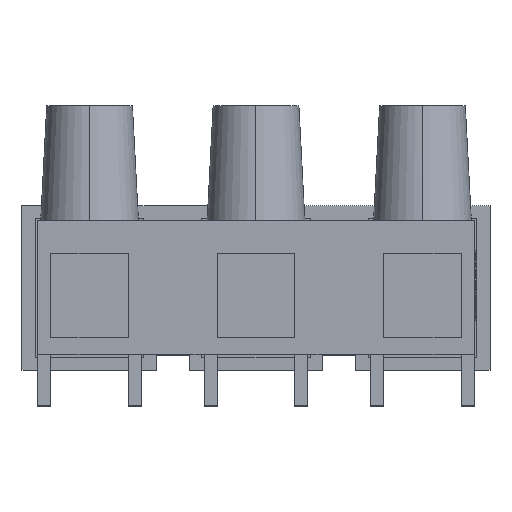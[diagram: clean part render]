
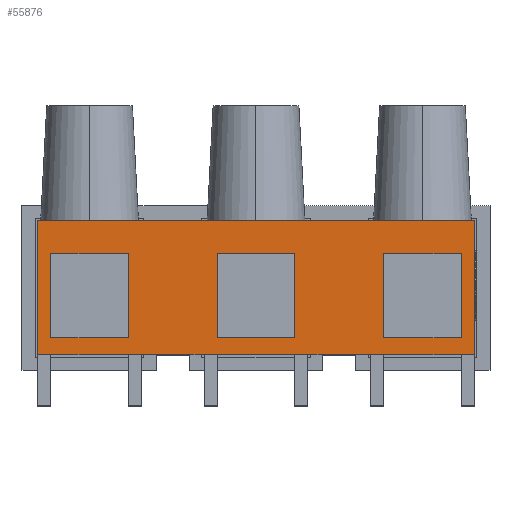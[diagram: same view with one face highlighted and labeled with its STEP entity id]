
A CAD part, top view. The second image highlights one B-rep face of the part: STEP entity #55876.
In plain terms, the highlighted planar face has unit normal (0, 0, 1).
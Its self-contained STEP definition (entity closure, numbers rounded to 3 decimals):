
#53501=CARTESIAN_POINT(' ',(23.35,8.1,18.5));
#53502=VERTEX_POINT(' ',#53501);
#53516=CARTESIAN_POINT(' ',(23.35,8.1,18.5));
#53521=DIRECTION(' ',(0.,-1.,0.));
#53526=VECTOR(' ',#53521,1.);
#53531=LINE('',#53516,#53526);
#53536=CARTESIAN_POINT(' ',(23.35,0.,18.5));
#53537=VERTEX_POINT(' ',#53536);
#53541=EDGE_CURVE(' ',#53502,#53537,#53531,.T.);
#54271=CARTESIAN_POINT(' ',(22.55,0.,18.5));
#54272=VERTEX_POINT(' ',#54271);
#54286=CARTESIAN_POINT(' ',(22.55,0.,18.5));
#54291=DIRECTION(' ',(-1.,0.,0.));
#54296=VECTOR(' ',#54291,1.);
#54301=LINE('',#54286,#54296);
#54306=CARTESIAN_POINT(' ',(17.85,0.,18.5));
#54307=VERTEX_POINT(' ',#54306);
#54311=EDGE_CURVE(' ',#54272,#54307,#54301,.T.);
#54866=CARTESIAN_POINT(' ',(22.55,0.,18.5));
#54871=DIRECTION(' ',(1.,0.,0.));
#54876=VECTOR(' ',#54871,1.);
#54881=LINE('',#54866,#54876);
#54886=EDGE_CURVE(' ',#54272,#53537,#54881,.T.);
#54996=CARTESIAN_POINT(' ',(23.35,0.,18.5));
#55001=DIRECTION(' ',(0.,0.,1.));
#55006=DIRECTION(' ',(0.,1.,0.));
#55011=AXIS2_PLACEMENT_3D(' ',#54996,#55001,#55006);
#55016=PLANE(' ',#55011);
#55021=CARTESIAN_POINT(' ',(-3.15,0.,18.5));
#55026=DIRECTION(' ',(0.,1.,0.));
#55031=VECTOR(' ',#55026,1.);
#55036=LINE('',#55021,#55031);
#55041=CARTESIAN_POINT(' ',(-3.15,0.,18.5));
#55042=VERTEX_POINT(' ',#55041);
#55046=CARTESIAN_POINT(' ',(-3.15,8.1,18.5));
#55047=VERTEX_POINT(' ',#55046);
#55051=EDGE_CURVE(' ',#55042,#55047,#55036,.T.);
#55056=ORIENTED_EDGE(' ',*,*,#55051,.F.);
#55061=CARTESIAN_POINT(' ',(-3.15,0.,18.5));
#55066=DIRECTION(' ',(1.,0.,0.));
#55071=VECTOR(' ',#55066,1.);
#55076=LINE('',#55061,#55071);
#55081=CARTESIAN_POINT(' ',(-2.35,0.,18.5));
#55082=VERTEX_POINT(' ',#55081);
#55086=EDGE_CURVE(' ',#55042,#55082,#55076,.T.);
#55091=ORIENTED_EDGE(' ',*,*,#55086,.T.);
#55096=CARTESIAN_POINT(' ',(-2.35,0.,18.5));
#55101=DIRECTION(' ',(1.,0.,0.));
#55106=VECTOR(' ',#55101,1.);
#55111=LINE('',#55096,#55106);
#55116=CARTESIAN_POINT(' ',(2.35,0.,18.5));
#55117=VERTEX_POINT(' ',#55116);
#55121=EDGE_CURVE(' ',#55082,#55117,#55111,.T.);
#55126=ORIENTED_EDGE(' ',*,*,#55121,.T.);
#55131=CARTESIAN_POINT(' ',(2.35,0.,18.5));
#55136=DIRECTION(' ',(1.,0.,0.));
#55141=VECTOR(' ',#55136,1.);
#55146=LINE('',#55131,#55141);
#55151=CARTESIAN_POINT(' ',(3.15,0.,18.5));
#55152=VERTEX_POINT(' ',#55151);
#55156=EDGE_CURVE(' ',#55117,#55152,#55146,.T.);
#55161=ORIENTED_EDGE(' ',*,*,#55156,.T.);
#55166=CARTESIAN_POINT(' ',(3.15,0.,18.5));
#55171=DIRECTION(' ',(1.,0.,0.));
#55176=VECTOR(' ',#55171,1.);
#55181=LINE('',#55166,#55176);
#55186=CARTESIAN_POINT(' ',(6.95,0.,18.5));
#55187=VERTEX_POINT(' ',#55186);
#55191=EDGE_CURVE(' ',#55152,#55187,#55181,.T.);
#55196=ORIENTED_EDGE(' ',*,*,#55191,.T.);
#55201=CARTESIAN_POINT(' ',(6.95,0.,18.5));
#55206=DIRECTION(' ',(1.,0.,0.));
#55211=VECTOR(' ',#55206,1.);
#55216=LINE('',#55201,#55211);
#55221=CARTESIAN_POINT(' ',(7.75,0.,18.5));
#55222=VERTEX_POINT(' ',#55221);
#55226=EDGE_CURVE(' ',#55187,#55222,#55216,.T.);
#55231=ORIENTED_EDGE(' ',*,*,#55226,.T.);
#55236=CARTESIAN_POINT(' ',(7.75,0.,18.5));
#55241=DIRECTION(' ',(1.,0.,0.));
#55246=VECTOR(' ',#55241,1.);
#55251=LINE('',#55236,#55246);
#55256=CARTESIAN_POINT(' ',(12.45,0.,18.5));
#55257=VERTEX_POINT(' ',#55256);
#55261=EDGE_CURVE(' ',#55222,#55257,#55251,.T.);
#55266=ORIENTED_EDGE(' ',*,*,#55261,.T.);
#55271=CARTESIAN_POINT(' ',(12.45,0.,18.5));
#55276=DIRECTION(' ',(1.,0.,0.));
#55281=VECTOR(' ',#55276,1.);
#55286=LINE('',#55271,#55281);
#55291=CARTESIAN_POINT(' ',(13.25,0.,18.5));
#55292=VERTEX_POINT(' ',#55291);
#55296=EDGE_CURVE(' ',#55257,#55292,#55286,.T.);
#55301=ORIENTED_EDGE(' ',*,*,#55296,.T.);
#55306=CARTESIAN_POINT(' ',(13.25,0.,18.5));
#55311=DIRECTION(' ',(1.,0.,0.));
#55316=VECTOR(' ',#55311,1.);
#55321=LINE('',#55306,#55316);
#55326=CARTESIAN_POINT(' ',(17.05,0.,18.5));
#55327=VERTEX_POINT(' ',#55326);
#55331=EDGE_CURVE(' ',#55292,#55327,#55321,.T.);
#55336=ORIENTED_EDGE(' ',*,*,#55331,.T.);
#55341=CARTESIAN_POINT(' ',(17.05,0.,18.5));
#55346=DIRECTION(' ',(1.,0.,0.));
#55351=VECTOR(' ',#55346,1.);
#55356=LINE('',#55341,#55351);
#55361=EDGE_CURVE(' ',#55327,#54307,#55356,.T.);
#55366=ORIENTED_EDGE(' ',*,*,#55361,.T.);
#55371=ORIENTED_EDGE(' ',*,*,#54311,.F.);
#55376=ORIENTED_EDGE(' ',*,*,#54886,.T.);
#55381=ORIENTED_EDGE(' ',*,*,#53541,.F.);
#55386=CARTESIAN_POINT(' ',(-3.15,8.1,18.5));
#55391=DIRECTION(' ',(1.,0.,0.));
#55396=VECTOR(' ',#55391,1.);
#55401=LINE('',#55386,#55396);
#55406=EDGE_CURVE(' ',#55047,#53502,#55401,.T.);
#55411=ORIENTED_EDGE(' ',*,*,#55406,.F.);
#55416=EDGE_LOOP(' ',(#55056,#55091,#55126,#55161,#55196,#55231,#55266,#55301,#55336,#55366,#55371,#55376,#55381,#55411));
#55421=FACE_OUTER_BOUND(' ',#55416,.T.);
#55426=CARTESIAN_POINT(' ',(-2.35,6.1,18.5));
#55431=DIRECTION(' ',(1.,0.,0.));
#55436=VECTOR(' ',#55431,1.);
#55441=LINE('',#55426,#55436);
#55446=CARTESIAN_POINT(' ',(-2.35,6.1,18.5));
#55447=VERTEX_POINT(' ',#55446);
#55451=CARTESIAN_POINT(' ',(2.35,6.1,18.5));
#55452=VERTEX_POINT(' ',#55451);
#55456=EDGE_CURVE(' ',#55447,#55452,#55441,.T.);
#55461=ORIENTED_EDGE(' ',*,*,#55456,.T.);
#55466=CARTESIAN_POINT(' ',(2.35,1.,18.5));
#55471=DIRECTION(' ',(0.,1.,0.));
#55476=VECTOR(' ',#55471,1.);
#55481=LINE('',#55466,#55476);
#55486=CARTESIAN_POINT(' ',(2.35,1.,18.5));
#55487=VERTEX_POINT(' ',#55486);
#55491=EDGE_CURVE(' ',#55487,#55452,#55481,.T.);
#55496=ORIENTED_EDGE(' ',*,*,#55491,.F.);
#55501=CARTESIAN_POINT(' ',(-2.35,1.,18.5));
#55506=DIRECTION(' ',(1.,0.,0.));
#55511=VECTOR(' ',#55506,1.);
#55516=LINE('',#55501,#55511);
#55521=CARTESIAN_POINT(' ',(-2.35,1.,18.5));
#55522=VERTEX_POINT(' ',#55521);
#55526=EDGE_CURVE(' ',#55522,#55487,#55516,.T.);
#55531=ORIENTED_EDGE(' ',*,*,#55526,.F.);
#55536=CARTESIAN_POINT(' ',(-2.35,6.1,18.5));
#55541=DIRECTION(' ',(0.,-1.,0.));
#55546=VECTOR(' ',#55541,1.);
#55551=LINE('',#55536,#55546);
#55556=EDGE_CURVE(' ',#55447,#55522,#55551,.T.);
#55561=ORIENTED_EDGE(' ',*,*,#55556,.F.);
#55566=EDGE_LOOP(' ',(#55461,#55496,#55531,#55561));
#55571=FACE_BOUND(' ',#55566,.T.);
#55576=CARTESIAN_POINT(' ',(17.85,6.1,18.5));
#55581=DIRECTION(' ',(1.,0.,0.));
#55586=VECTOR(' ',#55581,1.);
#55591=LINE('',#55576,#55586);
#55596=CARTESIAN_POINT(' ',(17.85,6.1,18.5));
#55597=VERTEX_POINT(' ',#55596);
#55601=CARTESIAN_POINT(' ',(22.55,6.1,18.5));
#55602=VERTEX_POINT(' ',#55601);
#55606=EDGE_CURVE(' ',#55597,#55602,#55591,.T.);
#55611=ORIENTED_EDGE(' ',*,*,#55606,.T.);
#55616=CARTESIAN_POINT(' ',(22.55,1.,18.5));
#55621=DIRECTION(' ',(0.,1.,0.));
#55626=VECTOR(' ',#55621,1.);
#55631=LINE('',#55616,#55626);
#55636=CARTESIAN_POINT(' ',(22.55,1.,18.5));
#55637=VERTEX_POINT(' ',#55636);
#55641=EDGE_CURVE(' ',#55637,#55602,#55631,.T.);
#55646=ORIENTED_EDGE(' ',*,*,#55641,.F.);
#55651=CARTESIAN_POINT(' ',(17.85,1.,18.5));
#55656=DIRECTION(' ',(1.,0.,0.));
#55661=VECTOR(' ',#55656,1.);
#55666=LINE('',#55651,#55661);
#55671=CARTESIAN_POINT(' ',(17.85,1.,18.5));
#55672=VERTEX_POINT(' ',#55671);
#55676=EDGE_CURVE(' ',#55672,#55637,#55666,.T.);
#55681=ORIENTED_EDGE(' ',*,*,#55676,.F.);
#55686=CARTESIAN_POINT(' ',(17.85,6.1,18.5));
#55691=DIRECTION(' ',(0.,-1.,0.));
#55696=VECTOR(' ',#55691,1.);
#55701=LINE('',#55686,#55696);
#55706=EDGE_CURVE(' ',#55597,#55672,#55701,.T.);
#55711=ORIENTED_EDGE(' ',*,*,#55706,.F.);
#55716=EDGE_LOOP(' ',(#55611,#55646,#55681,#55711));
#55721=FACE_BOUND(' ',#55716,.T.);
#55726=CARTESIAN_POINT(' ',(7.75,6.1,18.5));
#55731=DIRECTION(' ',(1.,0.,0.));
#55736=VECTOR(' ',#55731,1.);
#55741=LINE('',#55726,#55736);
#55746=CARTESIAN_POINT(' ',(7.75,6.1,18.5));
#55747=VERTEX_POINT(' ',#55746);
#55751=CARTESIAN_POINT(' ',(12.45,6.1,18.5));
#55752=VERTEX_POINT(' ',#55751);
#55756=EDGE_CURVE(' ',#55747,#55752,#55741,.T.);
#55761=ORIENTED_EDGE(' ',*,*,#55756,.T.);
#55766=CARTESIAN_POINT(' ',(12.45,1.,18.5));
#55771=DIRECTION(' ',(0.,1.,0.));
#55776=VECTOR(' ',#55771,1.);
#55781=LINE('',#55766,#55776);
#55786=CARTESIAN_POINT(' ',(12.45,1.,18.5));
#55787=VERTEX_POINT(' ',#55786);
#55791=EDGE_CURVE(' ',#55787,#55752,#55781,.T.);
#55796=ORIENTED_EDGE(' ',*,*,#55791,.F.);
#55801=CARTESIAN_POINT(' ',(7.75,1.,18.5));
#55806=DIRECTION(' ',(1.,0.,0.));
#55811=VECTOR(' ',#55806,1.);
#55816=LINE('',#55801,#55811);
#55821=CARTESIAN_POINT(' ',(7.75,1.,18.5));
#55822=VERTEX_POINT(' ',#55821);
#55826=EDGE_CURVE(' ',#55822,#55787,#55816,.T.);
#55831=ORIENTED_EDGE(' ',*,*,#55826,.F.);
#55836=CARTESIAN_POINT(' ',(7.75,6.1,18.5));
#55841=DIRECTION(' ',(0.,-1.,0.));
#55846=VECTOR(' ',#55841,1.);
#55851=LINE('',#55836,#55846);
#55856=EDGE_CURVE(' ',#55747,#55822,#55851,.T.);
#55861=ORIENTED_EDGE(' ',*,*,#55856,.F.);
#55866=EDGE_LOOP(' ',(#55761,#55796,#55831,#55861));
#55871=FACE_BOUND(' ',#55866,.T.);
#55876=ADVANCED_FACE('',(#55421,#55571,#55721,#55871),#55016,.T.);
